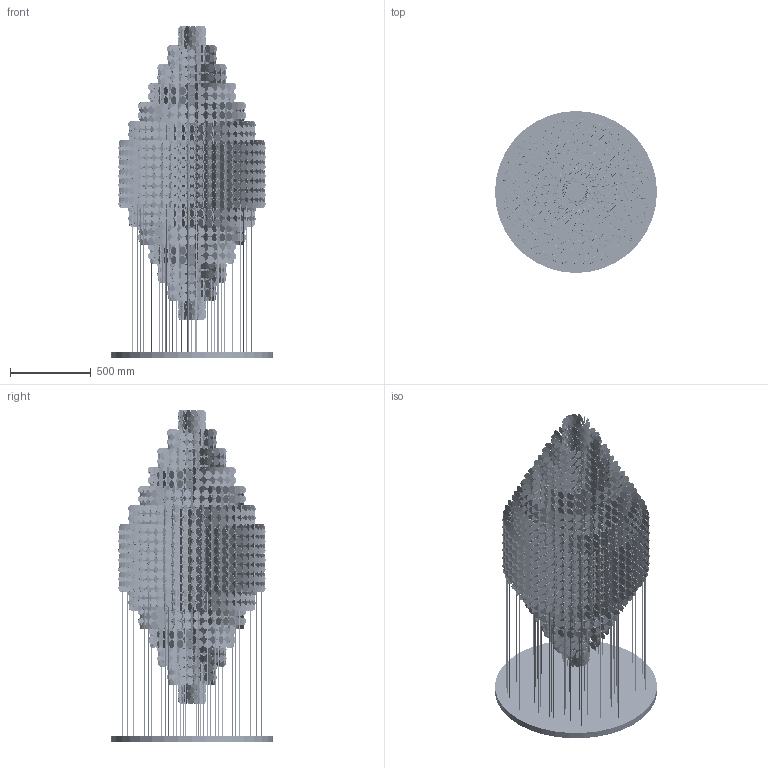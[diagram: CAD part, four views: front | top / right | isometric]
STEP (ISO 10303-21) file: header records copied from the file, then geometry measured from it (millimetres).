
FILE_DESCRIPTION (( 'STEP AP214' ), '1' );
FILE_NAME ('FUN 8DM Assembly.STEP', '2013-01-07T20:56:45', ( '' ), ( '' ), 'SwSTEP 2.0', 'SolidWorks 2013', '' );
FILE_SCHEMA (( 'AUTOMOTIVE_DESIGN' ));
Length unit declared in the file: millimetre
Products named in the file (16): FUN 8DM Assembly; Line 1279,5; Line 1304,5; Line 1394,5; Line 1419,5; Line 1509,5; Line 1534,5; Line 1624,5; Line 1649,5; Line 1739,5; Line 1764,5; Line 1854,5; Line 1879,5; Line 1969,5; Line 1994,5; Upper plate ø1000 for FUN 8
Assembly tree (417 placements, depth 2):
  FUN 8DM Assembly
    Upper plate ø1000 for FUN 8
    Line 1994,5  x13
    Line 1969,5  x13
    Line 1879,5  x19
    Line 1854,5  x19
    Line 1764,5  x23
    Line 1739,5  x23
    Line 1649,5  x27
    Line 1624,5  x27
    Line 1534,5  x34
    Line 1509,5  x34
    Line 1419,5  x43
    Line 1394,5  x43
    Line 1304,5  x49
    Line 1279,5  x49
Bounding box: 1000 x 1000 x 2049.5 mm (x, y, z)
Volume: 44519432.5 mm3; surface area: 29376373.2 mm2
Topology: 6985 solids, 6985 shells, 29182 faces, 44394 edges, 29596 vertices
Faces by surface type: cylinder 14798, plane 14384
Entity records: 64706 total; most frequent: DIRECTION 12522, CARTESIAN_POINT 9736, ORIENTED_EDGE 8340, AXIS2_PLACEMENT_3D 5566, EDGE_CURVE 4170, CIRCLE 2780, VERTEX_POINT 2780, EDGE_LOOP 2780
